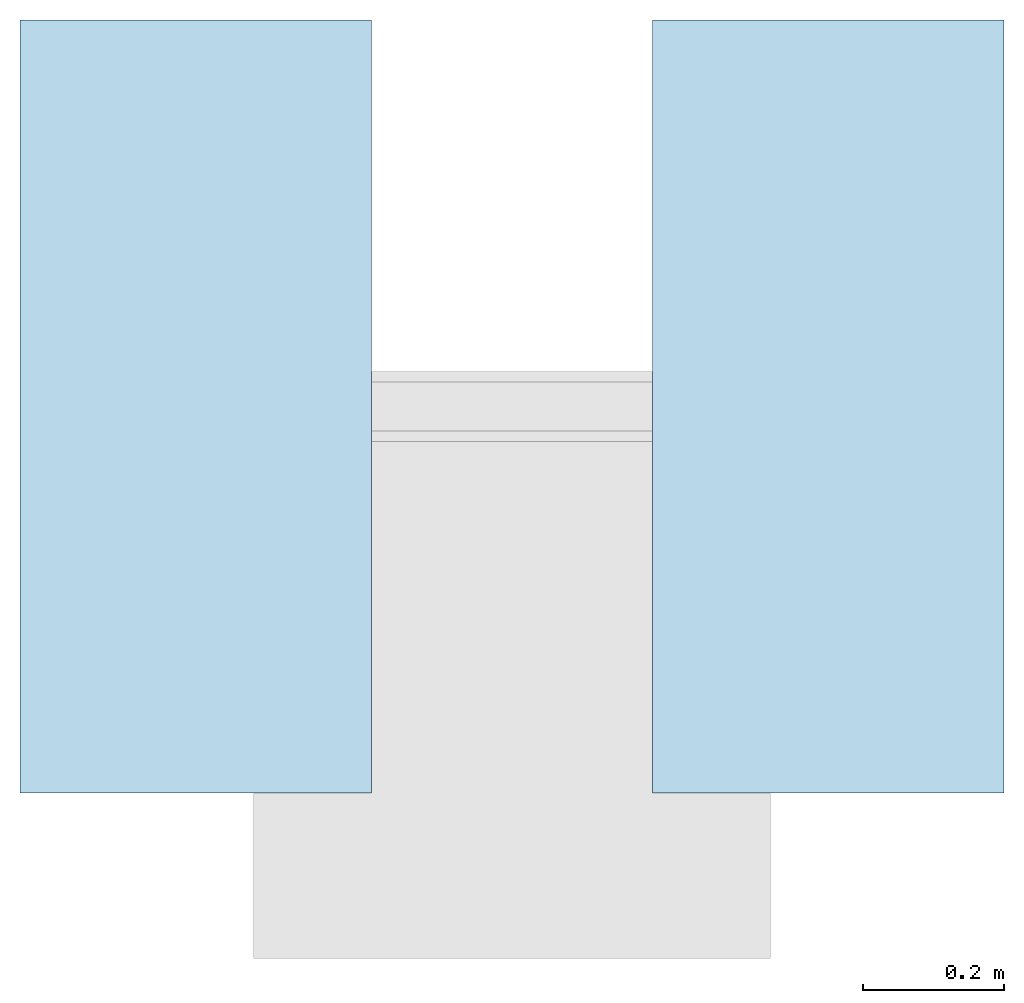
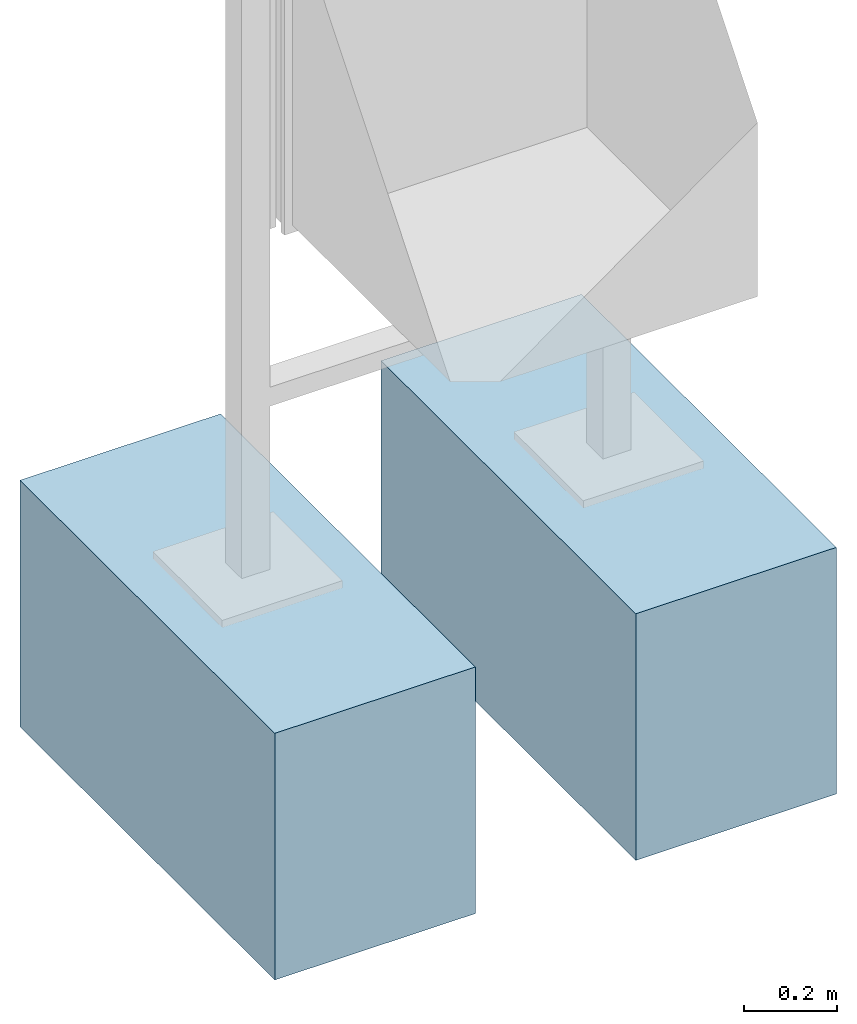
# One storey, incomplete: 2 slabs.
"""IFC4 building model written with IfcOpenShell, lengths in metres."""

from ifc_helpers import new_model, entity, si_unit, converted_unit, direction, frame, frame_2d, origin, origin_2d_with_axis, place, context, subcontext, project, spatial, rectangle, extrude, material, type_object, element, save


model = new_model("IFC4")

# Units and contexts
model_context = context("Model", 3, precision=1e-05, world=origin(), true_north=direction((6.123031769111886e-17, 1.0)))
body_context = subcontext(model_context, "Body", "Model", "MODEL_VIEW")
ifc_project = project(units=[si_unit("LENGTHUNIT", "METRE"), converted_unit("PLANEANGLEUNIT", "DEGREE", entity("IfcPlaneAngleMeasure", 0.017453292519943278), si_unit("PLANEANGLEUNIT", "RADIAN"), dimensions=[0, 0, 0, 0, 0, 0, 0]), si_unit("AREAUNIT", "SQUARE_METRE")], contexts=[model_context])

# Site, building, storey
site_placement = place(None, origin())
site = spatial("IfcSite", under=ifc_project, at=site_placement, Name="Default", CompositionType="ELEMENT")
building_placement = place(site_placement, origin())
building = spatial("IfcBuilding", under=site, at=building_placement, CompositionType="ELEMENT")
storey_placement = place(building_placement, origin())
storey = spatial("IfcBuildingStorey", under=building, at=storey_placement, Name="DB_Bezugshoehe_max_Bahnsteigkante", CompositionType="ELEMENT", Elevation=0.0)

# Slabs
ifc_material = material(Name="DB_Ortbeton", Category="DB_Beton")
slab_type = type_object("IfcSlabType", Name="DB_Vitrine_Fundament_kurz:DB_Vitrine_Fundament_kurz", PredefinedType="BASESLAB", material=ifc_material)
slab_1_placement = place(storey_placement, origin())
element("IfcSlab", 1, at=slab_1_placement, inside=storey, type_object=slab_type, Name="DB_Vitrine_Fundament_kurz:DB_Vitrine_Fundament_kurz", ObjectType="DB_Vitrine_Fundament_kurz:DB_Vitrine_Fundament_kurz", PredefinedType="BASESLAB", context=body_context, shape_type="SweptSolid", body=[
    extrude(rectangle(XDim=1.1, YDim=0.5, at=origin_2d_with_axis()), frame((0.0, 0.0, 0.04999999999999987), z_axis=(0.0, 0.0, 1.0), x_axis=(0.0, 1.0, 0.0)), (0.0, 0.0, 1.0), 0.5999999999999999),
    extrude(rectangle(XDim=0.5, YDim=1.1, at=frame_2d((2.7755575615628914e-17, 0.0), x_axis=(1.0, 0.0))), frame((0.0, 0.0, 0.0), z_axis=(0.0, 0.0, 1.0), x_axis=(-1.0, 0.0, 0.0)), (0.0, 0.0, 1.0), 0.04999999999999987),
])
slab_2_placement = place(storey_placement, origin())
element("IfcSlab", 2, at=slab_2_placement, inside=storey, type_object=slab_type, Name="DB_Vitrine_Fundament_kurz:DB_Vitrine_Fundament_kurz", ObjectType="DB_Vitrine_Fundament_kurz:DB_Vitrine_Fundament_kurz", PredefinedType="BASESLAB", context=body_context, shape_type="SweptSolid", body=[
    extrude(rectangle(XDim=1.1, YDim=0.5, at=origin_2d_with_axis()), frame((0.9000000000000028, 0.0, 0.04999999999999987), z_axis=(0.0, 0.0, 1.0), x_axis=(0.0, 1.0, 0.0)), (0.0, 0.0, 1.0), 0.5999999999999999),
    extrude(rectangle(XDim=0.5, YDim=1.1, at=origin_2d_with_axis()), frame((0.9000000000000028, 0.0, 0.0), z_axis=(0.0, 0.0, 1.0), x_axis=(-1.0, 0.0, 0.0)), (0.0, 0.0, 1.0), 0.04999999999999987),
])

save(model, "model.ifc")
